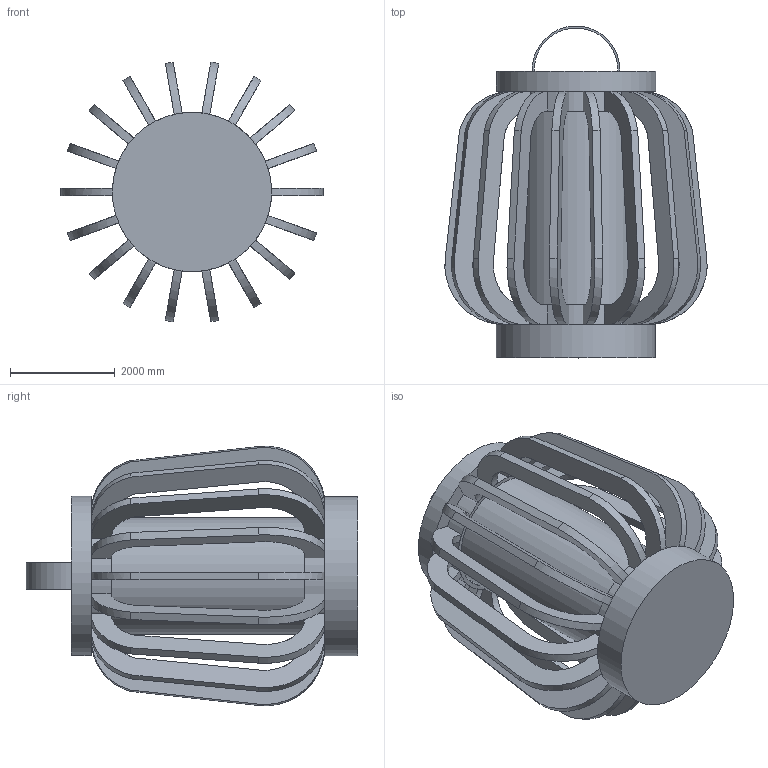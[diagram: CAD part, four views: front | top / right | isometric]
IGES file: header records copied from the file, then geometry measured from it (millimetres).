
Global section: file name: Portable Lantern Rechargeable Outdoor Light-D7.9″ ,4; native system: 8HAutoCAD 2022 - 简体中文 (Simplified Chinese); preprocessor: Autodesk Translation Framework DWG producer (atf_dwg_producer); organization: unknown; date: 20260715.114722; units: inch
Bounding box: 5017.42 x 6349.33 x 4967.66 mm (x, y, z)
Volume: 30996577420.2 mm3; surface area: 198413819.3 mm2
Topology: 24 solids, 24 shells, 257 faces, 635 edges, 426 vertices
Faces by surface type: bspline 257
